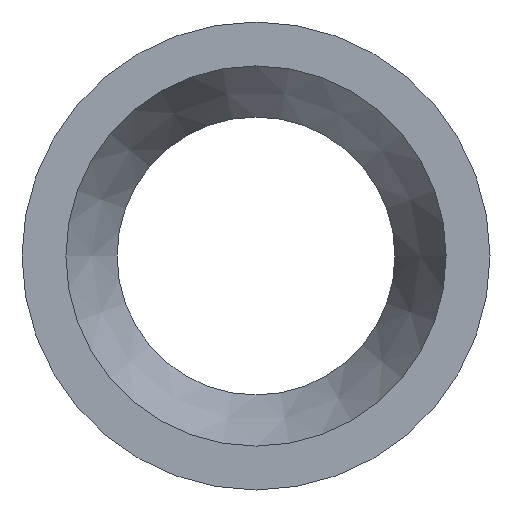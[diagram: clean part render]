
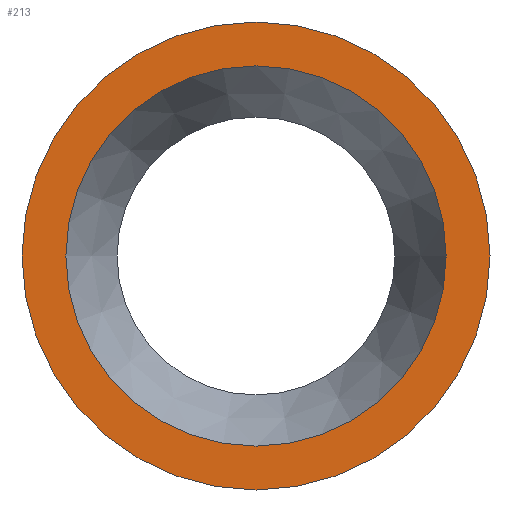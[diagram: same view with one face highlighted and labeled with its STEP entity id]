
A CAD part, left-side view. The second image highlights one B-rep face of the part: STEP entity #213.
In plain terms, the highlighted planar face has unit normal (-1, 0, 0).
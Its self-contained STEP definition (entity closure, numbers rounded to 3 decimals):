
#33=CARTESIAN_POINT('',(0.,16.,0.));
#34=VERTEX_POINT('',#33);
#41=CARTESIAN_POINT('',(0.,0.,0.));
#42=DIRECTION('',(1.,0.,0.));
#43=DIRECTION('',(0.,1.,0.));
#44=AXIS2_PLACEMENT_3D('',#41,#42,#43);
#45=CIRCLE('',#44,16.);
#46=EDGE_CURVE('',#34,#34,#45,.T.);
#178=CARTESIAN_POINT('',(0.,13.,0.));
#179=VERTEX_POINT('',#178);
#186=CARTESIAN_POINT('',(0.,0.,0.));
#187=DIRECTION('',(1.,0.,0.));
#188=DIRECTION('',(0.,1.,0.));
#189=AXIS2_PLACEMENT_3D('',#186,#187,#188);
#190=CIRCLE('',#189,13.);
#191=EDGE_CURVE('',#179,#179,#190,.T.);
#202=ORIENTED_EDGE('',*,*,#46,.F.);
#203=EDGE_LOOP('',(#202));
#204=FACE_OUTER_BOUND('',#203,.T.);
#205=ORIENTED_EDGE('',*,*,#191,.T.);
#206=EDGE_LOOP('',(#205));
#207=FACE_BOUND('',#206,.T.);
#208=CARTESIAN_POINT('',(0.,14.5,0.));
#209=DIRECTION('',(-1.,0.,0.));
#210=DIRECTION('',(0.,-1.,0.));
#211=AXIS2_PLACEMENT_3D('',#208,#209,#210);
#212=PLANE('',#211);
#213=ADVANCED_FACE('',(#204,#207),#212,.T.);
